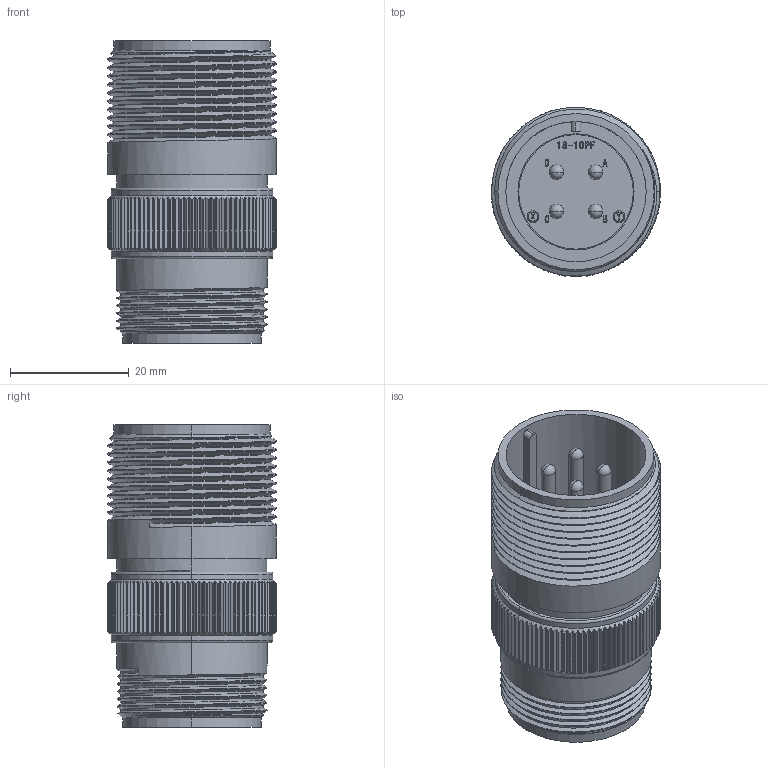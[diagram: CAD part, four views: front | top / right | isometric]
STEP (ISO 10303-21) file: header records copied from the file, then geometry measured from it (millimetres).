
FILE_DESCRIPTION (( 'STEP AP203' ), '1' );
FILE_NAME ('DMS3101A18-10P.STEP', '2017-02-23T02:43:32', ( '' ), ( '' ), 'SwSTEP 2.0', 'SolidWorks 2015', '' );
FILE_SCHEMA (( 'CONFIG_CONTROL_DESIGN' ));
Products named in the file (1): DMS3101A18-10P
Bounding box: 28.6 x 28.59 x 51.06 mm (x, y, z)
Volume: 14484 mm3; surface area: 14916.4 mm2
Topology: 1 solids, 1 shells, 1313 faces, 3690 edges, 2438 vertices
Faces by surface type: cylinder 580, plane 476, bspline 220, torus 20, cone 17
Entity records: 60981 total; most frequent: CARTESIAN_POINT 30679, ORIENTED_EDGE 7380, DIRECTION 4658, EDGE_CURVE 3690, VERTEX_POINT 2438, VECTOR 1600, LINE 1600, AXIS2_PLACEMENT_3D 1529
